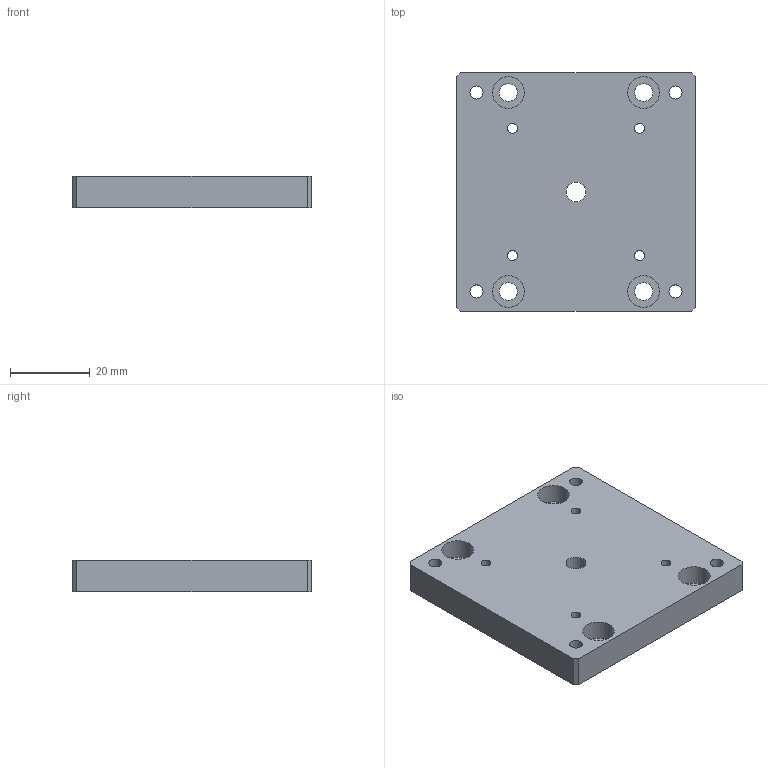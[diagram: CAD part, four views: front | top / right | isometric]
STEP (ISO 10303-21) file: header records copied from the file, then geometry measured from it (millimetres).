
FILE_DESCRIPTION( ( 'STEP AP203' ), '1' );
FILE_NAME( 'C:/3D-Trans/3D_A49-5N+071218.stp', '2007-12-18T05:03:24', ( ' ' ), ( ' ' ), 'XStep 1.0', ' ', ' ' );
FILE_SCHEMA( ( 'CONFIG_CONTROL_DESIGN' ) );
Length unit declared in the file: millimetre
Products named in the file (1): 1
Bounding box: 60 x 60 x 8 mm (x, y, z)
Volume: 27000 mm3; surface area: 10204.1 mm2
Topology: 1 solids, 1 shells, 31 faces, 79 edges, 54 vertices
Faces by surface type: cylinder 17, plane 14
Full cylindrical faces by diameter (mm): 2.5 x4, 3.3 x4, 4.5 x4, 5 x1, 8 x4
Entity records: 934 total; most frequent: DIRECTION 156, CARTESIAN_POINT 140, ORIENTED_EDGE 116, EDGE_LOOP 78, AXIS2_PLACEMENT_3D 66, EDGE_CURVE 58, VERTEX_POINT 50, FACE_OUTER_BOUND 48
